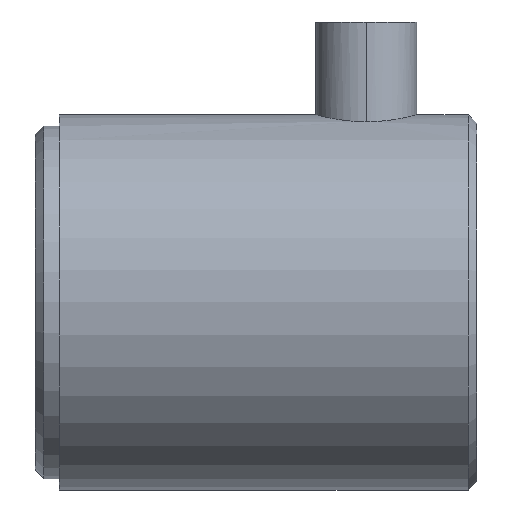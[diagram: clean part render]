
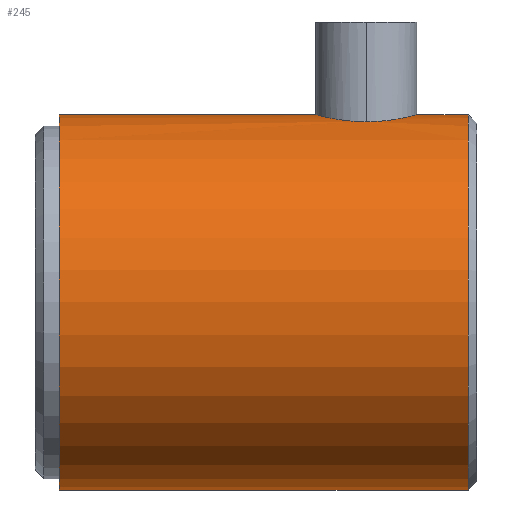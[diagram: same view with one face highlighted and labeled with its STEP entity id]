
A CAD part, left-side view. The second image highlights one B-rep face of the part: STEP entity #245.
In plain terms, the highlighted cylindrical face has radius 8.496 mm (diameter 16.993 mm), a partial arc.
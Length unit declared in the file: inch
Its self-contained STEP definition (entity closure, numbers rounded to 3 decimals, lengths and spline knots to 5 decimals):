
#13 = CIRCLE ( 'NONE', #321, 0.3345 ) ;
#31 = VECTOR ( 'NONE', #514, 39.37008 ) ;
#36 = CIRCLE ( 'NONE', #331, 0.3345 ) ;
#43 = VECTOR ( 'NONE', #560, 39.37008 ) ;
#47 = LINE ( 'NONE', #578, #43 ) ;
#48 = LINE ( 'NONE', #535, #31 ) ;
#107 = ORIENTED_EDGE ( 'NONE', *, *, #282, .F. ) ;
#109 = ORIENTED_EDGE ( 'NONE', *, *, #271, .T. ) ;
#122 = ORIENTED_EDGE ( 'NONE', *, *, #293, .T. ) ;
#123 = ORIENTED_EDGE ( 'NONE', *, *, #288, .T. ) ;
#135 = EDGE_LOOP ( 'NONE', ( #149, #157, #159, #109, #107, #123, #122 ) ) ;
#149 = ORIENTED_EDGE ( 'NONE', *, *, #290, .F. ) ;
#157 = ORIENTED_EDGE ( 'NONE', *, *, #281, .F. ) ;
#159 = ORIENTED_EDGE ( 'NONE', *, *, #299, .T. ) ;
#175 = FACE_OUTER_BOUND ( 'NONE', #135, .T. ) ;
#176 = CYLINDRICAL_SURFACE ( 'NONE', #342, 0.3345 ) ;
#199 = LINE ( 'NONE', #631, #220 ) ;
#220 = VECTOR ( 'NONE', #581, 39.37008 ) ;
#245 = ADVANCED_FACE ( 'NONE', ( #175 ), #176, .T. ) ;
#271 = EDGE_CURVE ( 'NONE', #370, #410, #13, .T. ) ;
#281 = EDGE_CURVE ( 'NONE', #500, #375, #36, .T. ) ;
#282 = EDGE_CURVE ( 'NONE', #391, #410, #48, .T. ) ;
#288 = EDGE_CURVE ( 'NONE', #391, #399, #366, .T. ) ;
#290 = EDGE_CURVE ( 'NONE', #375, #373, #47, .T. ) ;
#293 = EDGE_CURVE ( 'NONE', #399, #373, #367, .T. ) ;
#299 = EDGE_CURVE ( 'NONE', #500, #370, #199, .T. ) ;
#321 = AXIS2_PLACEMENT_3D ( 'NONE', #498, #467, #459 ) ;
#331 = AXIS2_PLACEMENT_3D ( 'NONE', #547, #505, #544 ) ;
#342 = AXIS2_PLACEMENT_3D ( 'NONE', #425, #416, #420 ) ;
#366 = B_SPLINE_CURVE_WITH_KNOTS ( 'NONE', 3,
 ( #520, #534, #527, #529, #539, #541, #542, #571, #577, #570, #556, #549, #550, #552, #551, #562 ),
 .UNSPECIFIED., .F., .F.,
 ( 4, 2, 2, 2, 2, 2, 2, 4 ),
 ( 0.01077, 0.01122, 0.01167, 0.01256, 0.01301, 0.01346, 0.01391, 0.01436 ),
 .UNSPECIFIED. ) ;
#367 = B_SPLINE_CURVE_WITH_KNOTS ( 'NONE', 3,
 ( #628, #611, #599, #603, #610, #613, #632, #612, #604, #605, #630, #633, #627, #629, #601, #594 ),
 .UNSPECIFIED., .F., .F.,
 ( 4, 2, 2, 2, 2, 2, 2, 4 ),
 ( 0., 0.00045, 0.0009, 0.00135, 0.0018, 0.00269, 0.00314, 0.00359 ),
 .UNSPECIFIED. ) ;
#370 = VERTEX_POINT ( 'NONE', #623 ) ;
#373 = VERTEX_POINT ( 'NONE', #625 ) ;
#375 = VERTEX_POINT ( 'NONE', #585 ) ;
#391 = VERTEX_POINT ( 'NONE', #598 ) ;
#399 = VERTEX_POINT ( 'NONE', #589 ) ;
#410 = VERTEX_POINT ( 'NONE', #661 ) ;
#416 = DIRECTION ( 'NONE',  ( 0., -1., 0. ) ) ;
#420 = DIRECTION ( 'NONE',  ( 0., 0., -1. ) ) ;
#425 = CARTESIAN_POINT ( 'NONE',  ( 0., 0.039, 0. ) ) ;
#459 = DIRECTION ( 'NONE',  ( 0., 0., 1. ) ) ;
#467 = DIRECTION ( 'NONE',  ( 0., 1., 0. ) ) ;
#498 = CARTESIAN_POINT ( 'NONE',  ( 0., 0.015, 0. ) ) ;
#500 = VERTEX_POINT ( 'NONE', #641 ) ;
#505 = DIRECTION ( 'NONE',  ( 0., 1., 0. ) ) ;
#514 = DIRECTION ( 'NONE',  ( 0., -1., 0. ) ) ;
#520 = CARTESIAN_POINT ( 'NONE',  ( 0., 0.107, 0.3345 ) ) ;
#527 = CARTESIAN_POINT ( 'NONE',  ( -0.01179, 0.10758, 0.33434 ) ) ;
#529 = CARTESIAN_POINT ( 'NONE',  ( -0.02336, 0.10989, 0.33373 ) ) ;
#534 = CARTESIAN_POINT ( 'NONE',  ( -0.00593, 0.107, 0.3345 ) ) ;
#535 = CARTESIAN_POINT ( 'NONE',  ( 0., 0.039, 0.3345 ) ) ;
#539 = CARTESIAN_POINT ( 'NONE',  ( -0.02911, 0.11163, 0.33328 ) ) ;
#541 = CARTESIAN_POINT ( 'NONE',  ( -0.04538, 0.1184, 0.33159 ) ) ;
#542 = CARTESIAN_POINT ( 'NONE',  ( -0.05536, 0.12509, 0.32999 ) ) ;
#544 = DIRECTION ( 'NONE',  ( 0., 0., 1. ) ) ;
#547 = CARTESIAN_POINT ( 'NONE',  ( 0., 0.744, 0. ) ) ;
#549 = CARTESIAN_POINT ( 'NONE',  ( -0.08534, 0.16782, 0.32344 ) ) ;
#550 = CARTESIAN_POINT ( 'NONE',  ( -0.08709, 0.17355, 0.32297 ) ) ;
#551 = CARTESIAN_POINT ( 'NONE',  ( -0.09, 0.19103, 0.32216 ) ) ;
#552 = CARTESIAN_POINT ( 'NONE',  ( -0.08941, 0.18514, 0.32233 ) ) ;
#556 = CARTESIAN_POINT ( 'NONE',  ( -0.08083, 0.15698, 0.3246 ) ) ;
#560 = DIRECTION ( 'NONE',  ( 0., -1., 0. ) ) ;
#562 = CARTESIAN_POINT ( 'NONE',  ( -0.09, 0.197, 0.32216 ) ) ;
#570 = CARTESIAN_POINT ( 'NONE',  ( -0.07806, 0.15183, 0.32528 ) ) ;
#571 = CARTESIAN_POINT ( 'NONE',  ( -0.06775, 0.13747, 0.32759 ) ) ;
#577 = CARTESIAN_POINT ( 'NONE',  ( -0.07151, 0.14204, 0.32678 ) ) ;
#578 = CARTESIAN_POINT ( 'NONE',  ( 0., 0.039, 0.3345 ) ) ;
#581 = DIRECTION ( 'NONE',  ( 0., -1., 0. ) ) ;
#585 = CARTESIAN_POINT ( 'NONE',  ( 0., 0.744, 0.3345 ) ) ;
#589 = CARTESIAN_POINT ( 'NONE',  ( -0.09, 0.197, 0.32216 ) ) ;
#594 = CARTESIAN_POINT ( 'NONE',  ( 0., 0.287, 0.3345 ) ) ;
#598 = CARTESIAN_POINT ( 'NONE',  ( 0., 0.107, 0.3345 ) ) ;
#599 = CARTESIAN_POINT ( 'NONE',  ( -0.08941, 0.20885, 0.32233 ) ) ;
#601 = CARTESIAN_POINT ( 'NONE',  ( -0.0059, 0.287, 0.3345 ) ) ;
#603 = CARTESIAN_POINT ( 'NONE',  ( -0.08711, 0.22039, 0.32296 ) ) ;
#604 = CARTESIAN_POINT ( 'NONE',  ( -0.06775, 0.25654, 0.3276 ) ) ;
#605 = CARTESIAN_POINT ( 'NONE',  ( -0.05535, 0.26893, 0.33 ) ) ;
#610 = CARTESIAN_POINT ( 'NONE',  ( -0.08536, 0.22613, 0.32343 ) ) ;
#611 = CARTESIAN_POINT ( 'NONE',  ( -0.09, 0.20298, 0.32216 ) ) ;
#612 = CARTESIAN_POINT ( 'NONE',  ( -0.07153, 0.25194, 0.32678 ) ) ;
#613 = CARTESIAN_POINT ( 'NONE',  ( -0.08083, 0.23701, 0.3246 ) ) ;
#623 = CARTESIAN_POINT ( 'NONE',  ( 0., 0.015, -0.3345 ) ) ;
#625 = CARTESIAN_POINT ( 'NONE',  ( 0., 0.287, 0.3345 ) ) ;
#627 = CARTESIAN_POINT ( 'NONE',  ( -0.0234, 0.28411, 0.33373 ) ) ;
#628 = CARTESIAN_POINT ( 'NONE',  ( -0.09, 0.197, 0.32216 ) ) ;
#629 = CARTESIAN_POINT ( 'NONE',  ( -0.01176, 0.28642, 0.33434 ) ) ;
#630 = CARTESIAN_POINT ( 'NONE',  ( -0.04534, 0.27562, 0.33159 ) ) ;
#631 = CARTESIAN_POINT ( 'NONE',  ( 0., 0.039, -0.3345 ) ) ;
#632 = CARTESIAN_POINT ( 'NONE',  ( -0.07806, 0.24217, 0.32528 ) ) ;
#633 = CARTESIAN_POINT ( 'NONE',  ( -0.02911, 0.28237, 0.33328 ) ) ;
#641 = CARTESIAN_POINT ( 'NONE',  ( 0., 0.744, -0.3345 ) ) ;
#661 = CARTESIAN_POINT ( 'NONE',  ( 0., 0.015, 0.3345 ) ) ;
